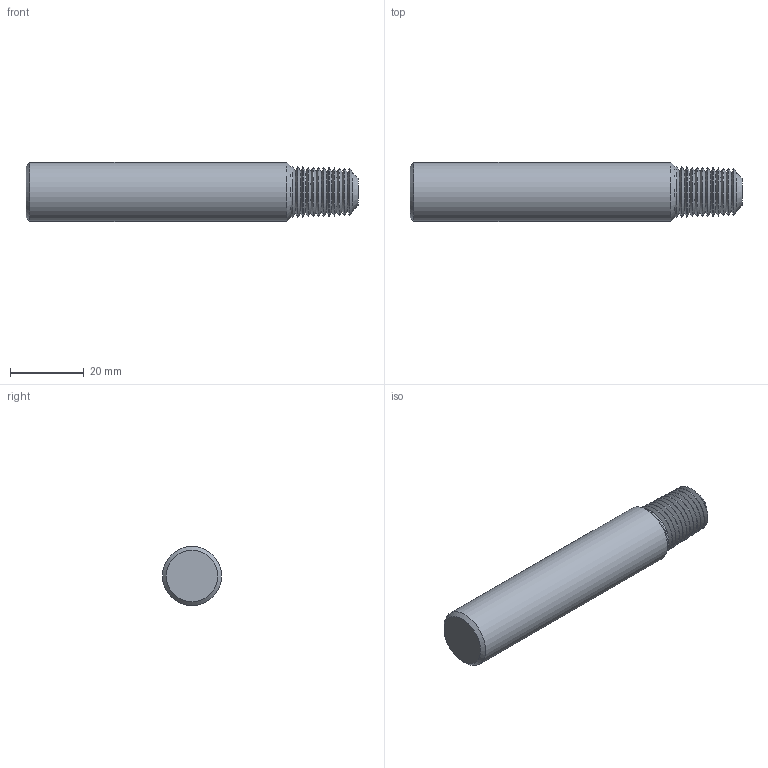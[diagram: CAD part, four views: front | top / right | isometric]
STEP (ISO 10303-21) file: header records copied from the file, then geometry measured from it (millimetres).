
FILE_DESCRIPTION(/* description */ (''),/* implementation_level */ '2;1');
FILE_NAME(/* name */ '171610-00036539-TDM',/* time_stamp */ '2024-02-21T13:13:52+01:00',/* author */ (''),/* organization */ (''),/* preprocessor_version */ 'ST-DEVELOPER v16.5',/* originating_system */ 'HiCAD 2017 2201.0 Build 268',/* authorisation */ '');
FILE_SCHEMA (('AUTOMOTIVE_DESIGN { 1 0 10303 214 1 1 1 1 }'));
Length unit declared in the file: millimetre
Products named in the file (3): Root; ROTATIONSTEIL_0
Assembly tree (2 placements, depth 3):
  Root
    ROTATIONSTEIL_0
      ROTATIONSTEIL_0
Bounding box: 90 x 16 x 16 mm (x, y, z)
Volume: 16433.5 mm3; surface area: 5307.2 mm2
Topology: 2 solids, 2 shells, 57 faces, 110 edges, 57 vertices
Faces by surface type: cone 26, torus 24, plane 4, cylinder 3
Full cylindrical faces by diameter (mm): 13.768 x1, 13.769 x1, 16 x1
Entity records: 1734 total; most frequent: DIRECTION 232, CARTESIAN_POINT 171, AXIS2_PLACEMENT_3D 116, PRESENTATION_STYLE_ASSIGNMENT 112, COLOUR_RGB 112, DRAUGHTING_PRE_DEFINED_CURVE_FONT 110, CURVE_STYLE 110, OVER_RIDING_STYLED_ITEM 110
